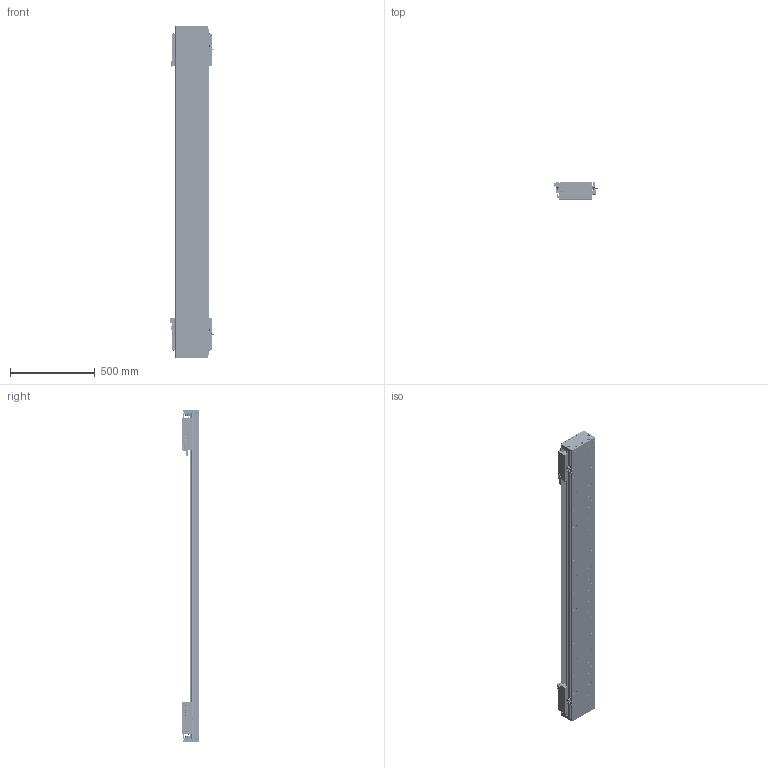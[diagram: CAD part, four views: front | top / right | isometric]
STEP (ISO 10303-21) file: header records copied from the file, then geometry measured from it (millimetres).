
FILE_DESCRIPTION (( 'STEP AP203' ), '1' );
FILE_NAME ('DA-C195-2-C2-T1460-C010-0.2 眻盄萇儂.STEP', '2025-08-14T02:04:52', ( '' ), ( '' ), 'SwSTEP 2.0', 'SolidWorks 2019', '' );
FILE_SCHEMA (( 'CONFIG_CONTROL_DESIGN' ));
Length unit declared in the file: millimetre
Products named in the file (19): DKW168-HXJ-ZJ-00 笢潔滅袉砎蝶; DA165-GYP-00 光电感应片(默认); PM-Y65嫖萇羲壽郪璃; MS200 棠掑喜S315-T1740; CU195-C2賑輸-俋楷; DA-C195-2-C2-T1460-C010-0.2 眻盄萇儂; DA95-HXJ-00 遣喳砎蝶; DA195詩湍菜輸; PM-T45ㄗ侂狟ㄘ; DKW-KGZ-ZJ-00 中间光电开关支架; DA195詩湍裔啣; LMT黍杅芛; IU-CU195-L 菁釱絳寢; 葩璃 DA95-GT-T-00; DA-C195-GD-DB-H-00 傷啣; DA195詩湍郪璃; IU-CU195-L-00 菁釱(L1920); DA195詩湍嶺輸; DKW-GYP-ZJ-00 笢潔嫖萇覜茼え
Assembly tree (37 placements, depth 3):
  DA-C195-2-C2-T1460-C010-0.2 眻盄萇儂
    DA195詩湍郪璃
      DA195詩湍菜輸  x2
      DA195詩湍裔啣
      DA195詩湍嶺輸  x2
      DA95-HXJ-00 遣喳砎蝶  x8
      DA-C195-GD-DB-H-00 傷啣  x2
    IU-CU195-L 菁釱絳寢
      IU-CU195-L-00 菁釱(L1920)
      葩璃 DA95-GT-T-00  x4
    LMT黍杅芛  x2
    MS200 棠掑喜S315-T1740
    PM-T45ㄗ侂狟ㄘ  x4
    DA165-GYP-00 光电感应片(默认)  x2
    PM-Y65嫖萇羲壽郪璃
    DKW168-HXJ-ZJ-00 笢潔滅袉砎蝶
    DKW-GYP-ZJ-00 笢潔嫖萇覜茼え
    DKW-KGZ-ZJ-00 中间光电开关支架
    CU195-C2賑輸-俋楷  x2
Bounding box: 258.2 x 115.45 x 1960 mm (x, y, z)
Volume: 12940174.8 mm3; surface area: 3693347.6 mm2
Topology: 114 solids, 242 shells, 6725 faces, 17495 edges, 10833 vertices
Faces by surface type: cylinder 3028, plane 2613, cone 916, torus 88, sphere 72, bspline 8
Entity records: 136243 total; most frequent: CARTESIAN_POINT 34563, ORIENTED_EDGE 20822, DIRECTION 20490, EDGE_CURVE 10411, AXIS2_PLACEMENT_3D 7521, VERTEX_POINT 6720, VECTOR 5448, LINE 5448
